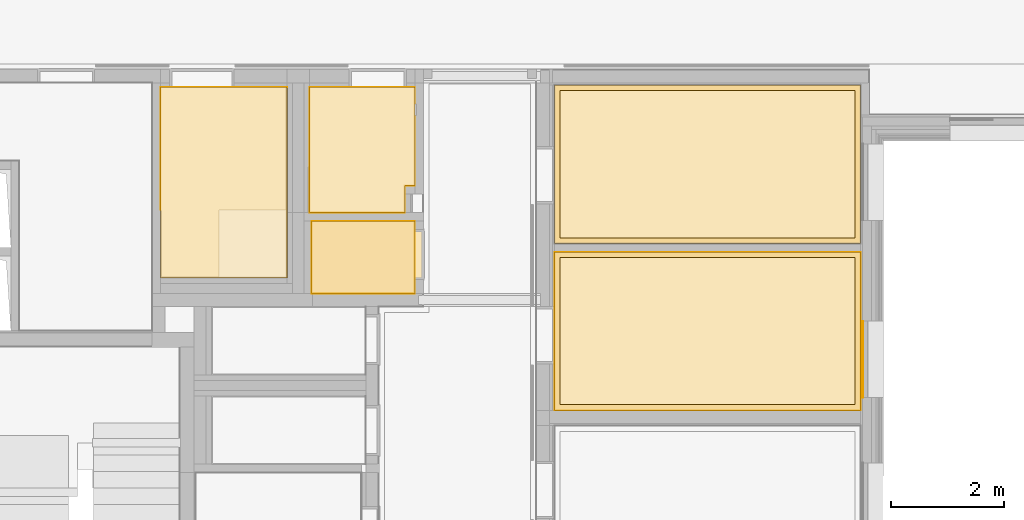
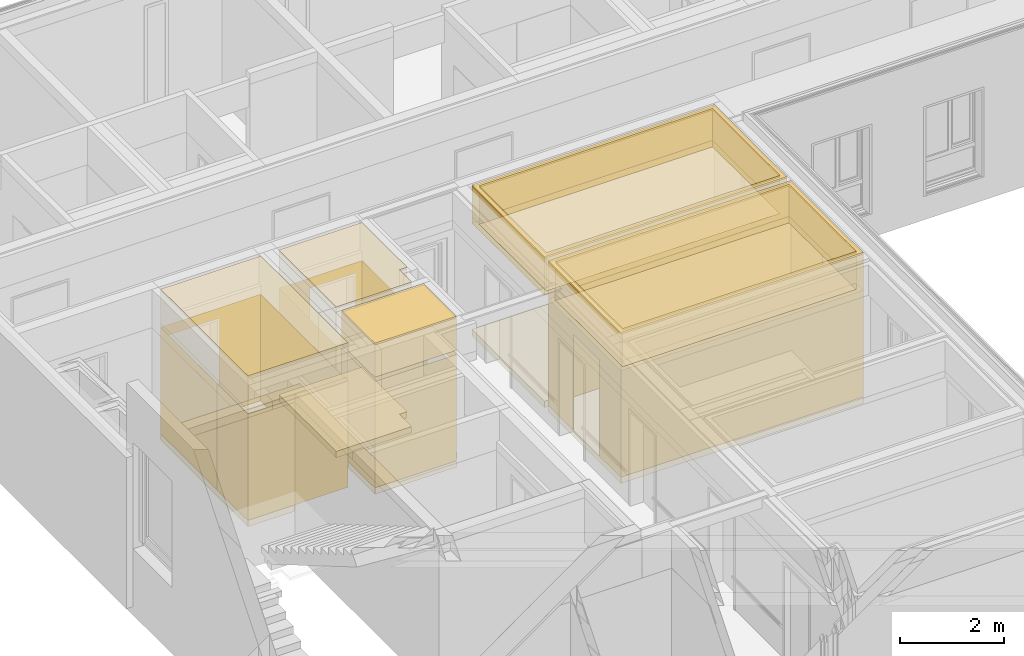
# One storey, part 161 of 222: 36 coverings.
"""IFC4 building model written with IfcOpenShell, lengths in metres."""

from ifc_helpers import new_model, entity, si_unit, converted_unit, derived_unit, frame, frame_2d, origin, origin_with_axes, place, context, subcontext, project, spatial, polyline, rectangle, outline, extrude, material, layer, layer_set, layer_usage, element, save


model = new_model("IFC4")

# Units and contexts
model_context = context("Model", 3, precision=1e-05, world=origin())
body_context = subcontext(model_context, "Body", "Model", "MODEL_VIEW")
ifc_project = project(units=[si_unit("LENGTHUNIT", "METRE"), si_unit("AREAUNIT", "SQUARE_METRE"), si_unit("VOLUMEUNIT", "CUBIC_METRE"), si_unit("MASSUNIT", "GRAM", prefix="KILO"), converted_unit("PLANEANGLEUNIT", "DEGREE", entity("IfcPlaneAngleMeasure", 0.0174532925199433), si_unit("PLANEANGLEUNIT", "RADIAN"), dimensions=[0, 0, 0, 0, 0, 0, 0]), derived_unit("THERMALTRANSMITTANCEUNIT", [(si_unit("POWERUNIT", "WATT"), 1), (si_unit("THERMODYNAMICTEMPERATUREUNIT", "KELVIN"), -1), (si_unit("LENGTHUNIT", "METRE"), -2)]), derived_unit("VOLUMETRICFLOWRATEUNIT", [(si_unit("LENGTHUNIT", "METRE"), 3), (converted_unit("TIMEUNIT", "hour", entity("IfcTimeMeasure", 3600.0), si_unit("TIMEUNIT", "SECOND"), dimensions=[0, 0, 1, 0, 0, 0, 0]), -1), (si_unit("LENGTHUNIT", "METRE"), -1)])], contexts=[model_context])

# Site, building, storey, space
site_placement = place(None, origin())
site = spatial("IfcSite", under=ifc_project, at=site_placement, Name="Psychiatrie Neubau Wunstorf", CompositionType="ELEMENT")
building_placement = place(site_placement, origin())
building = spatial("IfcBuilding", under=site, at=building_placement, Name="Neubau H2 Stationsgebäude", CompositionType="ELEMENT")
storey_placement = place(building_placement, frame((0.0, 0.0, 3.6)))
storey = spatial("IfcBuildingStorey", under=building, at=storey_placement, Name="H2 Ebene +1", CompositionType="ELEMENT", Elevation=3.6)
space_1_placement = place(storey_placement, frame((10.2390000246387, 15.8255, 0.0)))
space_1 = spatial("IfcSpace", under=storey, at=space_1_placement, Name="WUN-H2-E01-034", CompositionType="ELEMENT")

# Coverings
ifc_material_1 = material()
ifc_layer_1 = layer(ifc_material_1, 0.036)
ifc_layer_set_1 = layer_set([ifc_layer_1])
ifc_layer_usage_1 = layer_usage(ifc_layer_set_1, "AXIS3", "POSITIVE", 0.0)
covering_1_placement = place(space_1_placement, frame((0.0, 0.0, 3.55)))
element("IfcCovering", 1, at=covering_1_placement, inside=space_1, material=ifc_layer_usage_1, Name="Gipsfaserplatten 2-lagig (BSK)", PredefinedType="CEILING", context=body_context, shape_type="SweptSolid", body=[
    extrude(outline(polyline([(0.0, 0.0), (5.39999997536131, 0.0), (5.39999997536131, 2.7925), (0.0, 2.7925), (0.0, 0.0)]), holes=[polyline([(5.29999997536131, 2.6925), (5.29999997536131, 0.1), (0.1, 0.1), (0.1, 2.6925), (5.29999997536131, 2.6925)])]), frame((0.0, 2.7925, 0.0), z_axis=(0.0, 0.0, -1.0), x_axis=(1.0, 0.0, 0.0)), (0.0, 0.0, 1.0), 0.036),
])
ifc_material_2 = material(Name="Installationshöhe")
ifc_layer_2 = layer(ifc_material_2, 0.714)
ifc_layer_set_2 = layer_set([ifc_layer_2])
ifc_layer_usage_2 = layer_usage(ifc_layer_set_2, "AXIS3", "POSITIVE", 0.0)
covering_2_placement = place(space_1_placement, frame((0.0, 0.0, 3.514)))
element("IfcCovering", 2, at=covering_2_placement, inside=space_1, material=ifc_layer_usage_2, Name="Gipsfaserplatten 2-lagig (BSK)", PredefinedType="CEILING", context=body_context, shape_type="SweptSolid", body=[
    extrude(outline(polyline([(0.0, 0.0), (5.39999997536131, 0.0), (5.39999997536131, 2.7925), (0.0, 2.7925), (0.0, 0.0)]), holes=[polyline([(5.29999997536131, 2.6925), (5.29999997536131, 0.1), (0.1, 0.1), (0.1, 2.6925), (5.29999997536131, 2.6925)])]), frame((0.0, 2.7925, 0.0), z_axis=(0.0, 0.0, -1.0), x_axis=(1.0, 0.0, 0.0)), (0.0, 0.0, 1.0), 0.714),
])
ifc_material_3 = material(Name="A1")
ifc_layer_3 = layer(ifc_material_3, 0.15)
ifc_layer_set_3 = layer_set([ifc_layer_3])
ifc_layer_usage_3 = layer_usage(ifc_layer_set_3, "AXIS3", "POSITIVE", 0.0)
covering_3_placement = place(space_1_placement, frame((0.0, 0.0, 2.8)))
element("IfcCovering", 3, at=covering_3_placement, inside=space_1, material=ifc_layer_usage_3, Name="Gipsfaserplatten 2-lagig (BSK)", PredefinedType="CEILING", context=body_context, shape_type="SweptSolid", body=[
    extrude(outline(polyline([(0.0, 0.0), (5.39999997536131, 0.0), (5.39999997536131, 2.7925), (0.0, 2.7925), (0.0, 0.0)]), holes=[polyline([(5.29999997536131, 2.6925), (5.29999997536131, 0.1), (0.1, 0.1), (0.1, 2.6925), (5.29999997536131, 2.6925)])]), frame((0.0, 2.7925, 0.0), z_axis=(0.0, 0.0, -1.0), x_axis=(1.0, 0.0, 0.0)), (0.0, 0.0, 1.0), 0.15),
])
ifc_material_4 = material(Name="D1")
ifc_layer_4 = layer(ifc_material_4, 0.001)
ifc_layer_set_4 = layer_set([ifc_layer_4])
ifc_layer_usage_4 = layer_usage(ifc_layer_set_4, "AXIS3", "POSITIVE", 0.0)
covering_4_placement = place(space_1_placement, frame((0.0, 0.0, 2.65)))
element("IfcCovering", 4, at=covering_4_placement, inside=space_1, material=ifc_layer_usage_4, Name="Gipsfaserplatten 2-lagig (BSK)", PredefinedType="CEILING", context=body_context, shape_type="SweptSolid", body=[
    extrude(outline(polyline([(0.0, 0.0), (5.39999997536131, 0.0), (5.39999997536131, 2.7925), (0.0, 2.7925), (0.0, 0.0)]), holes=[polyline([(5.29999997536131, 2.6925), (5.29999997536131, 0.1), (0.1, 0.1), (0.1, 2.6925), (5.29999997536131, 2.6925)])]), frame((0.0, 2.7925, 0.0), z_axis=(0.0, 0.0, -1.0), x_axis=(1.0, 0.0, 0.0)), (0.0, 0.0, 1.0), 0.001),
])
ifc_material_5 = material()
ifc_layer_5 = layer(ifc_material_5, 0.036)
ifc_layer_set_5 = layer_set([ifc_layer_5])
ifc_layer_usage_5 = layer_usage(ifc_layer_set_5, "AXIS3", "POSITIVE", 0.0)
covering_5_placement = place(space_1_placement, frame((0.1, 0.1, 3.55)))
element("IfcCovering", 5, at=covering_5_placement, inside=space_1, material=ifc_layer_usage_5, Name="Gipsfaserplatten 2-lagig (BSK)", PredefinedType="CEILING", context=body_context, shape_type="SweptSolid", body=[
    extrude(rectangle(XDim=2.5925, YDim=5.19999997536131, at=frame_2d((2.59999998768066, -1.29625), x_axis=(0.0, -1.0))), frame((0.0, 0.0, 0.0), z_axis=(0.0, 0.0, -1.0), x_axis=(1.0, 0.0, 0.0)), (0.0, 0.0, 1.0), 0.036),
])
ifc_material_6 = material(Name="Installationshöhe")
ifc_layer_6 = layer(ifc_material_6, 0.714)
ifc_layer_set_6 = layer_set([ifc_layer_6])
ifc_layer_usage_6 = layer_usage(ifc_layer_set_6, "AXIS3", "POSITIVE", 0.0)
covering_6_placement = place(space_1_placement, frame((0.1, 0.1, 3.514)))
element("IfcCovering", 6, at=covering_6_placement, inside=space_1, material=ifc_layer_usage_6, Name="Gipsfaserplatten 2-lagig (BSK)", PredefinedType="CEILING", context=body_context, shape_type="SweptSolid", body=[
    extrude(rectangle(XDim=2.5925, YDim=5.19999997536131, at=frame_2d((2.59999998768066, -1.29625), x_axis=(0.0, -1.0))), frame((0.0, 0.0, 0.0), z_axis=(0.0, 0.0, -1.0), x_axis=(1.0, 0.0, 0.0)), (0.0, 0.0, 1.0), 0.714),
])
ifc_material_7 = material(Name="Aa")
ifc_layer_7 = layer(ifc_material_7, 0.15)
ifc_layer_set_7 = layer_set([ifc_layer_7])
ifc_layer_usage_7 = layer_usage(ifc_layer_set_7, "AXIS3", "POSITIVE", 0.0)
covering_7_placement = place(space_1_placement, frame((0.1, 0.1, 2.8)))
element("IfcCovering", 7, at=covering_7_placement, inside=space_1, material=ifc_layer_usage_7, Name="Gipsfaserplatten 2-lagig (BSK)", PredefinedType="CEILING", context=body_context, shape_type="SweptSolid", body=[
    extrude(rectangle(XDim=2.5925, YDim=5.19999997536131, at=frame_2d((2.59999998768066, -1.29625), x_axis=(0.0, -1.0))), frame((0.0, 0.0, 0.0), z_axis=(0.0, 0.0, -1.0), x_axis=(1.0, 0.0, 0.0)), (0.0, 0.0, 1.0), 0.15),
])
ifc_material_8 = material(Name="D1")
ifc_layer_8 = layer(ifc_material_8, 0.001)
ifc_layer_set_8 = layer_set([ifc_layer_8])
ifc_layer_usage_8 = layer_usage(ifc_layer_set_8, "AXIS3", "POSITIVE", 0.0)
covering_8_placement = place(space_1_placement, frame((0.1, 0.1, 2.65)))
element("IfcCovering", 8, at=covering_8_placement, inside=space_1, material=ifc_layer_usage_8, Name="Gipsfaserplatten 2-lagig (BSK)", PredefinedType="CEILING", context=body_context, shape_type="SweptSolid", body=[
    extrude(rectangle(XDim=2.5925, YDim=5.19999997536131, at=frame_2d((2.59999998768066, -1.29625), x_axis=(0.0, -1.0))), frame((0.0, 0.0, 0.0), z_axis=(0.0, 0.0, -1.0), x_axis=(1.0, 0.0, 0.0)), (0.0, 0.0, 1.0), 0.001),
])
ifc_material_9 = material(Name="Ku1")
ifc_layer_9 = layer(ifc_material_9, 0.15)
ifc_layer_set_9 = layer_set([ifc_layer_9])
ifc_layer_usage_9 = layer_usage(ifc_layer_set_9, "AXIS3", "POSITIVE", 0.0)
covering_9_placement = place(space_1_placement, origin())
element("IfcCovering", 9, at=covering_9_placement, inside=space_1, material=ifc_layer_usage_9, Name="PVC Bahnenware Holzoptik", PredefinedType="FLOORING", context=body_context, shape_type="SweptSolid", body=[
    extrude(rectangle(XDim=2.7925, YDim=5.39999997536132, at=frame_2d((-2.69999998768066, 1.39625), x_axis=(0.0, 1.0))), frame((5.39999997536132, 0.0, 0.0), z_axis=(0.0, 0.0, 1.0), x_axis=(1.0, 0.0, 0.0)), (0.0, 0.0, 1.0), 0.15),
])
ifc_material_10 = material(Name="49")
ifc_layer_10 = layer(ifc_material_10, 0.001)
ifc_layer_set_10 = layer_set([ifc_layer_10])
ifc_layer_usage_10 = layer_usage(ifc_layer_set_10, "AXIS3", "POSITIVE", 0.0)
covering_10_placement = place(space_1_placement, frame((0.0, 0.0, 0.15)))
element("IfcCovering", 10, at=covering_10_placement, inside=space_1, material=ifc_layer_usage_10, PredefinedType="CLADDING", context=body_context, shape_type="SweptSolid", body=[
    extrude(outline(polyline([(0.0, 3.15), (0.963986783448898, 3.15), (0.963986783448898, 0.89), (1.9739867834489, 0.89), (1.9739867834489, 3.15), (2.7925, 3.15), (2.7925, 0.0), (0.0, 0.0), (0.0, 3.15)])), frame((0.0, 2.7925, 3.15), z_axis=(1.0, 0.0, -1.89147406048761e-16), x_axis=(0.0, -1.0, 0.0)), (0.0, 0.0, 1.0), 0.001),
    extrude(rectangle(XDim=5.39999997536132, YDim=3.15, at=frame_2d((2.69999998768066, -1.575), x_axis=(1.0, 0.0))), frame((0.0, 0.0, 0.0), z_axis=(0.0, 1.0, 0.0), x_axis=(1.0, 0.0, 0.0)), (0.0, 0.0, 1.0), 0.001),
    extrude(outline(polyline([(0.0, 3.15), (2.7925, 3.15), (2.7925, 0.0), (0.0, 0.0), (0.0, 3.15)]), holes=[polyline([(1.57449999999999, 2.75), (0.224499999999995, 2.75), (0.224499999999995, 0.635), (1.57449999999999, 0.635), (1.57449999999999, 2.75)])]), frame((5.39999997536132, 0.0, 3.15), z_axis=(-1.0, 0.0, 0.0), x_axis=(0.0, 1.0, 0.0)), (0.0, 0.0, 1.0), 0.001),
    extrude(rectangle(XDim=5.39999997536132, YDim=3.15, at=frame_2d((2.69999998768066, -1.575), x_axis=(1.0, 0.0))), frame((5.39999997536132, 2.7925, 0.0), z_axis=(0.0, -1.0, 0.0), x_axis=(-1.0, 0.0, 0.0)), (0.0, 0.0, 1.0), 0.001),
    extrude(rectangle(XDim=0.0500000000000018, YDim=1.35, at=frame_2d((0.0250000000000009, -0.674999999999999), x_axis=(1.0, 0.0))), frame((5.39999997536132, 0.224499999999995, 2.515), z_axis=(0.0, 0.0, -1.0), x_axis=(1.0, 0.0, 0.0)), (0.0, 0.0, 1.0), 0.001),
    extrude(rectangle(XDim=0.0500000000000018, YDim=2.115, at=frame_2d((0.0250000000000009, -1.0575), x_axis=(1.0, 0.0))), frame((5.39999997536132, 0.224499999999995, 0.4), z_axis=(0.0, 1.0, 0.0), x_axis=(1.0, 0.0, 0.0)), (0.0, 0.0, 1.0), 0.001),
    extrude(rectangle(XDim=2.115, YDim=0.0500000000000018, at=frame_2d((-0.0250000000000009, -1.0575), x_axis=(0.0, -1.0))), frame((5.39999997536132, 1.57449999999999, 0.4), z_axis=(0.0, -1.0, 0.0), x_axis=(-1.0, 0.0, 0.0)), (0.0, 0.0, 1.0), 0.001),
])

# Space
space_2_placement = place(storey_placement, frame((10.2390000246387, 18.768, 0.0)))
space_2 = spatial("IfcSpace", under=storey, at=space_2_placement, Name="WUN-H2-E01-033", CompositionType="ELEMENT")

# Coverings
ifc_material_11 = material()
ifc_layer_11 = layer(ifc_material_11, 0.036)
ifc_layer_set_11 = layer_set([ifc_layer_11])
ifc_layer_usage_11 = layer_usage(ifc_layer_set_11, "AXIS3", "POSITIVE", 0.0)
covering_11_placement = place(space_2_placement, frame((0.1, 0.1, 3.55)))
element("IfcCovering", 11, at=covering_11_placement, inside=space_2, material=ifc_layer_usage_11, Name="Gipsfaserplatten 2-lagig (BSK)", PredefinedType="CEILING", context=body_context, shape_type="SweptSolid", body=[
    extrude(rectangle(XDim=2.59599999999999, YDim=5.19999997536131, at=frame_2d((2.59999998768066, -1.29799999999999), x_axis=(0.0, -1.0))), frame((0.0, 0.0, 0.0), z_axis=(0.0, 0.0, -1.0), x_axis=(1.0, 0.0, 0.0)), (0.0, 0.0, 1.0), 0.036),
])
ifc_material_12 = material(Name="Installationshöhe")
ifc_layer_12 = layer(ifc_material_12, 0.714)
ifc_layer_set_12 = layer_set([ifc_layer_12])
ifc_layer_usage_12 = layer_usage(ifc_layer_set_12, "AXIS3", "POSITIVE", 0.0)
covering_12_placement = place(space_2_placement, frame((0.1, 0.1, 3.514)))
element("IfcCovering", 12, at=covering_12_placement, inside=space_2, material=ifc_layer_usage_12, Name="Gipsfaserplatten 2-lagig (BSK)", PredefinedType="CEILING", context=body_context, shape_type="SweptSolid", body=[
    extrude(rectangle(XDim=2.59599999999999, YDim=5.19999997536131, at=frame_2d((2.59999998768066, -1.29799999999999), x_axis=(0.0, -1.0))), frame((0.0, 0.0, 0.0), z_axis=(0.0, 0.0, -1.0), x_axis=(1.0, 0.0, 0.0)), (0.0, 0.0, 1.0), 0.714),
])
ifc_material_13 = material(Name="Aa")
ifc_layer_13 = layer(ifc_material_13, 0.15)
ifc_layer_set_13 = layer_set([ifc_layer_13])
ifc_layer_usage_13 = layer_usage(ifc_layer_set_13, "AXIS3", "POSITIVE", 0.0)
covering_13_placement = place(space_2_placement, frame((0.1, 0.1, 2.8)))
element("IfcCovering", 13, at=covering_13_placement, inside=space_2, material=ifc_layer_usage_13, Name="Gipsfaserplatten 2-lagig (BSK)", PredefinedType="CEILING", context=body_context, shape_type="SweptSolid", body=[
    extrude(rectangle(XDim=2.59599999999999, YDim=5.19999997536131, at=frame_2d((2.59999998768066, -1.29799999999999), x_axis=(0.0, -1.0))), frame((0.0, 0.0, 0.0), z_axis=(0.0, 0.0, -1.0), x_axis=(1.0, 0.0, 0.0)), (0.0, 0.0, 1.0), 0.15),
])
ifc_material_14 = material(Name="D1")
ifc_layer_14 = layer(ifc_material_14, 0.001)
ifc_layer_set_14 = layer_set([ifc_layer_14])
ifc_layer_usage_14 = layer_usage(ifc_layer_set_14, "AXIS3", "POSITIVE", 0.0)
covering_14_placement = place(space_2_placement, frame((0.1, 0.1, 2.65)))
element("IfcCovering", 14, at=covering_14_placement, inside=space_2, material=ifc_layer_usage_14, Name="Gipsfaserplatten 2-lagig (BSK)", PredefinedType="CEILING", context=body_context, shape_type="SweptSolid", body=[
    extrude(rectangle(XDim=2.59599999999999, YDim=5.19999997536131, at=frame_2d((2.59999998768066, -1.29799999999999), x_axis=(0.0, -1.0))), frame((0.0, 0.0, 0.0), z_axis=(0.0, 0.0, -1.0), x_axis=(1.0, 0.0, 0.0)), (0.0, 0.0, 1.0), 0.001),
])
ifc_material_15 = material()
ifc_layer_15 = layer(ifc_material_15, 0.036)
ifc_layer_set_15 = layer_set([ifc_layer_15])
ifc_layer_usage_15 = layer_usage(ifc_layer_set_15, "AXIS3", "POSITIVE", 0.0)
covering_15_placement = place(space_2_placement, frame((0.0, 0.0, 3.55)))
element("IfcCovering", 15, at=covering_15_placement, inside=space_2, material=ifc_layer_usage_15, Name="Gipsfaserplatten 2-lagig (BSK)", PredefinedType="CEILING", context=body_context, shape_type="SweptSolid", body=[
    extrude(outline(polyline([(0.0, 0.0), (5.39999997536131, 0.0), (5.39999997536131, 2.79599999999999), (0.0, 2.79599999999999), (0.0, 0.0)]), holes=[polyline([(0.1, 2.69599999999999), (5.29999997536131, 2.69599999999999), (5.29999997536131, 0.1), (0.1, 0.1), (0.1, 2.69599999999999)])]), frame((0.0, 2.79599999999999, 0.0), z_axis=(0.0, 0.0, -1.0), x_axis=(1.0, 0.0, 0.0)), (0.0, 0.0, 1.0), 0.036),
])
ifc_material_16 = material(Name="Installationshöhe")
ifc_layer_16 = layer(ifc_material_16, 0.714)
ifc_layer_set_16 = layer_set([ifc_layer_16])
ifc_layer_usage_16 = layer_usage(ifc_layer_set_16, "AXIS3", "POSITIVE", 0.0)
covering_16_placement = place(space_2_placement, frame((0.0, 0.0, 3.514)))
element("IfcCovering", 16, at=covering_16_placement, inside=space_2, material=ifc_layer_usage_16, Name="Gipsfaserplatten 2-lagig (BSK)", PredefinedType="CEILING", context=body_context, shape_type="SweptSolid", body=[
    extrude(outline(polyline([(0.0, 0.0), (5.39999997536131, 0.0), (5.39999997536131, 2.79599999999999), (0.0, 2.79599999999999), (0.0, 0.0)]), holes=[polyline([(0.1, 2.69599999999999), (5.29999997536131, 2.69599999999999), (5.29999997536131, 0.1), (0.1, 0.1), (0.1, 2.69599999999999)])]), frame((0.0, 2.79599999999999, 0.0), z_axis=(0.0, 0.0, -1.0), x_axis=(1.0, 0.0, 0.0)), (0.0, 0.0, 1.0), 0.714),
])
ifc_material_17 = material(Name="A1")
ifc_layer_17 = layer(ifc_material_17, 0.15)
ifc_layer_set_17 = layer_set([ifc_layer_17])
ifc_layer_usage_17 = layer_usage(ifc_layer_set_17, "AXIS3", "POSITIVE", 0.0)
covering_17_placement = place(space_2_placement, frame((0.0, 0.0, 2.8)))
element("IfcCovering", 17, at=covering_17_placement, inside=space_2, material=ifc_layer_usage_17, Name="Gipsfaserplatten 2-lagig (BSK)", PredefinedType="CEILING", context=body_context, shape_type="SweptSolid", body=[
    extrude(outline(polyline([(0.0, 0.0), (5.39999997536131, 0.0), (5.39999997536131, 2.79599999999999), (0.0, 2.79599999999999), (0.0, 0.0)]), holes=[polyline([(0.1, 2.69599999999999), (5.29999997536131, 2.69599999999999), (5.29999997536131, 0.1), (0.1, 0.1), (0.1, 2.69599999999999)])]), frame((0.0, 2.79599999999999, 0.0), z_axis=(0.0, 0.0, -1.0), x_axis=(1.0, 0.0, 0.0)), (0.0, 0.0, 1.0), 0.15),
])
ifc_material_18 = material(Name="D1")
ifc_layer_18 = layer(ifc_material_18, 0.001)
ifc_layer_set_18 = layer_set([ifc_layer_18])
ifc_layer_usage_18 = layer_usage(ifc_layer_set_18, "AXIS3", "POSITIVE", 0.0)
covering_18_placement = place(space_2_placement, frame((0.0, 0.0, 2.65)))
element("IfcCovering", 18, at=covering_18_placement, inside=space_2, material=ifc_layer_usage_18, Name="Gipsfaserplatten 2-lagig (BSK)", PredefinedType="CEILING", context=body_context, shape_type="SweptSolid", body=[
    extrude(outline(polyline([(0.0, 0.0), (5.39999997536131, 0.0), (5.39999997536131, 2.79599999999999), (0.0, 2.79599999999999), (0.0, 0.0)]), holes=[polyline([(0.1, 2.69599999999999), (5.29999997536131, 2.69599999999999), (5.29999997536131, 0.1), (0.1, 0.1), (0.1, 2.69599999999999)])]), frame((0.0, 2.79599999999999, 0.0), z_axis=(0.0, 0.0, -1.0), x_axis=(1.0, 0.0, 0.0)), (0.0, 0.0, 1.0), 0.001),
])
ifc_material_19 = material(Name="Ku1")
ifc_layer_19 = layer(ifc_material_19, 0.15)
ifc_layer_set_19 = layer_set([ifc_layer_19])
ifc_layer_usage_19 = layer_usage(ifc_layer_set_19, "AXIS3", "POSITIVE", 0.0)
covering_19_placement = place(space_2_placement, origin())
element("IfcCovering", 19, at=covering_19_placement, inside=space_2, material=ifc_layer_usage_19, Name="PVC Bahnenware Holzoptik", PredefinedType="FLOORING", context=body_context, shape_type="SweptSolid", body=[
    extrude(rectangle(XDim=5.39999997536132, YDim=2.79599999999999, at=frame_2d((2.69999998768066, 1.39799999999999), x_axis=(1.0, 0.0))), origin_with_axes(), (0.0, 0.0, 1.0), 0.15),
])

# Space
space_3_placement = place(storey_placement, frame((5.95501322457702, 17.8860132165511, 0.0)))
space_3 = spatial("IfcSpace", under=storey, at=space_3_placement, Name="WUN-H2-E01-032", CompositionType="ELEMENT")

# Coverings
ifc_material_20 = material(Name="Ku2")
ifc_layer_20 = layer(ifc_material_20, 0.15)
ifc_layer_set_20 = layer_set([ifc_layer_20])
ifc_layer_usage_20 = layer_usage(ifc_layer_set_20, "AXIS3", "POSITIVE", 0.0)
covering_20_placement = place(space_3_placement, origin())
element("IfcCovering", 20, at=covering_20_placement, inside=space_3, material=ifc_layer_usage_20, Name="PVC Bahnenware Uni", PredefinedType="FLOORING", context=body_context, shape_type="SweptSolid", body=[
    extrude(rectangle(XDim=0.15, YDim=0.885000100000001, at=frame_2d((0.075, 0.442500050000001), x_axis=(1.0, 0.0))), frame((1.81998677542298, 0.243996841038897, 0.0), z_axis=(0.0, 0.0, 1.0), x_axis=(1.0, 0.0, 0.0)), (0.0, 0.0, 1.0), 0.15),
    extrude(rectangle(XDim=1.27899108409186, YDim=1.819986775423, at=frame_2d((-0.909993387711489, 0.639495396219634), x_axis=(2.13330971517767e-15, 1.0))), frame((1.81998677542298, 0.0, 0.0), z_axis=(0.0, 0.0, 1.0), x_axis=(1.0, 0.0, 0.0)), (0.0, 0.0, 1.0), 0.15),
])
ifc_material_21 = material()
ifc_layer_21 = layer(ifc_material_21, 0.036)
ifc_layer_set_21 = layer_set([ifc_layer_21])
ifc_layer_usage_21 = layer_usage(ifc_layer_set_21, "AXIS3", "POSITIVE", 0.0)
covering_21_placement = place(space_3_placement, frame((0.0, 0.0, 3.55)))
element("IfcCovering", 21, at=covering_21_placement, inside=space_3, material=ifc_layer_usage_21, Name="Gipsfaserplatten 2-lagig (BSK)", PredefinedType="CEILING", context=body_context, shape_type="SweptSolid", body=[
    extrude(rectangle(XDim=1.27899108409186, YDim=1.81998677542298, at=frame_2d((-0.90999338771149, 0.63949554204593), x_axis=(-2.13330971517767e-15, 1.0))), frame((1.81998677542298, 1.27899108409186, 0.0), z_axis=(0.0, 0.0, -1.0), x_axis=(1.0, 0.0, 0.0)), (0.0, 0.0, 1.0), 0.036),
])
ifc_material_22 = material(Name="Installationshöhe")
ifc_layer_22 = layer(ifc_material_22, 0.764)
ifc_layer_set_22 = layer_set([ifc_layer_22])
ifc_layer_usage_22 = layer_usage(ifc_layer_set_22, "AXIS3", "POSITIVE", 0.0)
covering_22_placement = place(space_3_placement, frame((0.0, 0.0, 3.514)))
element("IfcCovering", 22, at=covering_22_placement, inside=space_3, material=ifc_layer_usage_22, Name="Gipsfaserplatten 2-lagig (BSK)", PredefinedType="CEILING", context=body_context, shape_type="SweptSolid", body=[
    extrude(rectangle(XDim=1.27899108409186, YDim=1.81998677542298, at=frame_2d((-0.90999338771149, 0.63949554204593), x_axis=(-2.13330971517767e-15, 1.0))), frame((1.81998677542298, 1.27899108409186, 0.0), z_axis=(0.0, 0.0, -1.0), x_axis=(1.0, 0.0, 0.0)), (0.0, 0.0, 1.0), 0.764),
])
ifc_material_23 = material(Name="E3")
ifc_layer_23 = layer(ifc_material_23, 0.1)
ifc_layer_set_23 = layer_set([ifc_layer_23])
ifc_layer_usage_23 = layer_usage(ifc_layer_set_23, "AXIS3", "POSITIVE", 0.0)
covering_23_placement = place(space_3_placement, frame((0.0, 0.0, 2.75)))
element("IfcCovering", 23, at=covering_23_placement, inside=space_3, material=ifc_layer_usage_23, Name="Rasterdecke", PredefinedType="CEILING", context=body_context, shape_type="SweptSolid", body=[
    extrude(rectangle(XDim=1.27899108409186, YDim=1.81998677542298, at=frame_2d((-0.90999338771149, 0.63949554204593), x_axis=(-2.13330971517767e-15, 1.0))), frame((1.81998677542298, 1.27899108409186, 0.0), z_axis=(0.0, 0.0, -1.0), x_axis=(1.0, 0.0, 0.0)), (0.0, 0.0, 1.0), 0.1),
])
ifc_material_24 = material(Name="50")
ifc_layer_24 = layer(ifc_material_24, 0.001)
ifc_layer_set_24 = layer_set([ifc_layer_24])
ifc_layer_usage_24 = layer_usage(ifc_layer_set_24, "AXIS3", "POSITIVE", 0.0)
covering_24_placement = place(space_3_placement, frame((0.0, 0.0, 0.15)))
element("IfcCovering", 24, at=covering_24_placement, inside=space_3, material=ifc_layer_usage_24, PredefinedType="CLADDING", context=body_context, shape_type="SweptSolid", body=[
    extrude(rectangle(XDim=1.27899079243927, YDim=2.5, at=frame_2d((0.639495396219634, -1.25), x_axis=(1.0, 0.0))), frame((0.0, 1.27899079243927, 0.0), z_axis=(1.0, 0.0, 0.0), x_axis=(0.0, -1.0, 0.0)), (0.0, 0.0, 1.0), 0.001),
    extrude(rectangle(XDim=1.81998677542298, YDim=2.5, at=frame_2d((0.909993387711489, -1.25), x_axis=(1.0, 0.0))), frame((0.0, 0.0, 0.0), z_axis=(0.0, 1.0, 0.0), x_axis=(1.0, 0.0, 0.0)), (0.0, 0.0, 1.0), 0.001),
    extrude(outline(polyline([(0.0, 2.5), (0.243996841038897, 2.5), (0.243996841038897, 0.24), (1.1289969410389, 0.24), (1.1289969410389, 2.5), (1.27899108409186, 2.5), (1.27899108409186, 0.0), (0.0, 0.0), (0.0, 2.5)])), frame((1.81998677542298, 0.0, 2.5), z_axis=(-1.0, 1.61954103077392e-15, -2.97463574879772e-16), x_axis=(1.61954103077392e-15, 1.0, 0.0)), (0.0, 0.0, 1.0), 0.001),
    extrude(rectangle(XDim=1.819986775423, YDim=2.5, at=frame_2d((0.909993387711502, -1.25), x_axis=(1.0, 0.0))), frame((1.81998677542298, 1.27899108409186, 0.0), z_axis=(1.60249841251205e-07, -0.999999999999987, 0.0), x_axis=(-0.999999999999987, -1.60249841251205e-07, 0.0)), (0.0, 0.0, 1.0), 0.001),
])

# Space
space_4_placement = place(storey_placement, frame((5.92029110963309, 19.3150163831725, 0.0)))
space_4 = spatial("IfcSpace", under=storey, at=space_4_placement, Name="WUN-H2-E01-038", CompositionType="ELEMENT")

# Coverings
ifc_material_25 = material(Name="Ku2")
ifc_layer_25 = layer(ifc_material_25, 0.15)
ifc_layer_set_25 = layer_set([ifc_layer_25])
ifc_layer_usage_25 = layer_usage(ifc_layer_set_25, "AXIS3", "POSITIVE", 0.0)
covering_25_placement = place(space_4_placement, origin())
element("IfcCovering", 25, at=covering_25_placement, inside=space_4, material=ifc_layer_usage_25, Name="PVC Bahnenware Uni", PredefinedType="FLOORING", context=body_context, shape_type="SweptSolid", body=[
    extrude(outline(polyline([(1.85470907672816, 0.474993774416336), (1.85480603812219, 2.21398361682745), (0.0, 2.21398361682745), (0.0, 0.0), (1.6797088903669, 0.0), (1.6797088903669, 0.474993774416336), (1.85470907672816, 0.474993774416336)])), origin_with_axes(), (0.0, 0.0, 1.0), 0.15),
])
ifc_material_26 = material()
ifc_layer_26 = layer(ifc_material_26, 0.036)
ifc_layer_set_26 = layer_set([ifc_layer_26])
ifc_layer_usage_26 = layer_usage(ifc_layer_set_26, "AXIS3", "POSITIVE", 0.0)
covering_26_placement = place(space_4_placement, frame((0.0, 0.0, 3.55)))
element("IfcCovering", 26, at=covering_26_placement, inside=space_4, material=ifc_layer_usage_26, Name="Gipsfaserplatten 2-lagig (BSK)", PredefinedType="CEILING", context=body_context, shape_type="SweptSolid", body=[
    extrude(outline(polyline([(1.85480603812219, 0.0), (1.85470907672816, 1.73898984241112), (1.6797088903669, 1.73898984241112), (1.6797088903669, 2.21398361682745), (0.0, 2.21398361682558), (0.0, 0.0), (1.85480603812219, 0.0)])), frame((0.0, 2.21398361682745, 0.0), z_axis=(0.0, 0.0, -1.0), x_axis=(1.0, 0.0, 0.0)), (0.0, 0.0, 1.0), 0.036),
])
ifc_material_27 = material(Name="Installationshöhe")
ifc_layer_27 = layer(ifc_material_27, 0.764)
ifc_layer_set_27 = layer_set([ifc_layer_27])
ifc_layer_usage_27 = layer_usage(ifc_layer_set_27, "AXIS3", "POSITIVE", 0.0)
covering_27_placement = place(space_4_placement, frame((0.0, 0.0, 3.514)))
element("IfcCovering", 27, at=covering_27_placement, inside=space_4, material=ifc_layer_usage_27, Name="Gipsfaserplatten 2-lagig (BSK)", PredefinedType="CEILING", context=body_context, shape_type="SweptSolid", body=[
    extrude(outline(polyline([(1.85480603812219, 0.0), (1.85470907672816, 1.73898984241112), (1.6797088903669, 1.73898984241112), (1.6797088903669, 2.21398361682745), (0.0, 2.21398361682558), (0.0, 0.0), (1.85480603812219, 0.0)])), frame((0.0, 2.21398361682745, 0.0), z_axis=(0.0, 0.0, -1.0), x_axis=(1.0, 0.0, 0.0)), (0.0, 0.0, 1.0), 0.764),
])
ifc_material_28 = material(Name="E3")
ifc_layer_28 = layer(ifc_material_28, 0.1)
ifc_layer_set_28 = layer_set([ifc_layer_28])
ifc_layer_usage_28 = layer_usage(ifc_layer_set_28, "AXIS3", "POSITIVE", 0.0)
covering_28_placement = place(space_4_placement, frame((0.0, 0.0, 2.75)))
element("IfcCovering", 28, at=covering_28_placement, inside=space_4, material=ifc_layer_usage_28, Name="Rasterdecke", PredefinedType="CEILING", context=body_context, shape_type="SweptSolid", body=[
    extrude(outline(polyline([(1.85480603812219, 0.0), (1.85470907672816, 1.73898984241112), (1.6797088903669, 1.73898984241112), (1.6797088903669, 2.21398361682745), (0.0, 2.21398361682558), (0.0, 0.0), (1.85480603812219, 0.0)])), frame((0.0, 2.21398361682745, 0.0), z_axis=(0.0, 0.0, -1.0), x_axis=(1.0, 0.0, 0.0)), (0.0, 0.0, 1.0), 0.1),
])
ifc_material_29 = material(Name="50")
ifc_layer_29 = layer(ifc_material_29, 0.001)
ifc_layer_set_29 = layer_set([ifc_layer_29])
ifc_layer_usage_29 = layer_usage(ifc_layer_set_29, "AXIS3", "POSITIVE", 0.0)
covering_29_placement = place(space_4_placement, frame((0.0, 0.0, 0.15)))
element("IfcCovering", 29, at=covering_29_placement, inside=space_4, material=ifc_layer_usage_29, PredefinedType="CLADDING", context=body_context, shape_type="SweptSolid", body=[
    extrude(rectangle(XDim=0.474993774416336, YDim=2.5, at=frame_2d((0.237496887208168, -1.25), x_axis=(1.0, 0.0))), frame((1.6797088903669, 0.0, 0.0), z_axis=(-1.0, 0.0, 0.0), x_axis=(0.0, 1.0, 0.0)), (0.0, 0.0, 1.0), 0.001),
    extrude(rectangle(XDim=0.175000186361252, YDim=2.5, at=frame_2d((0.0875000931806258, -1.25), x_axis=(1.0, 0.0))), frame((1.6797088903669, 0.474993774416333, 0.0), z_axis=(0.0, 1.0, 0.0), x_axis=(1.0, 0.0, 0.0)), (0.0, 0.0, 1.0), 0.001),
    extrude(rectangle(XDim=1.73898984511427, YDim=2.5, at=frame_2d((0.869494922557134, -1.25), x_axis=(1.0, 0.0))), frame((1.85470907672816, 0.474993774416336, 0.0), z_axis=(-0.999999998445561, 5.57573089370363e-05, 0.0), x_axis=(5.57573089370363e-05, 0.999999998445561, 0.0)), (0.0, 0.0, 1.0), 0.001),
    extrude(outline(polyline([(0.0, 2.5), (0.150103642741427, 2.5), (0.150103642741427, 0.24), (1.16010364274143, 0.24), (1.16010364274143, 2.5), (1.85480603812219, 2.5), (1.85480603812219, 0.0), (0.0, 0.0), (0.0, 2.5)])), frame((1.85480603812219, 2.21398361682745, 2.5), z_axis=(0.0, -1.0, 0.0), x_axis=(-1.0, 0.0, 0.0)), (0.0, 0.0, 1.0), 0.001),
    extrude(rectangle(XDim=2.21398361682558, YDim=2.5, at=frame_2d((1.10699180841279, -1.25), x_axis=(1.0, 0.0))), frame((0.0, 2.21398361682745, 0.0), z_axis=(1.0, 0.0, 0.0), x_axis=(0.0, -1.0, 0.0)), (0.0, 0.0, 1.0), 0.001),
    extrude(rectangle(XDim=1.6797088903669, YDim=2.5, at=frame_2d((0.839854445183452, -1.25), x_axis=(1.0, 0.0))), frame((0.0, 0.0, 0.0), z_axis=(1.11540701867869e-12, 1.0, -2.52136829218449e-29), x_axis=(1.0, -1.11540701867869e-12, 0.0)), (0.0, 0.0, 1.0), 0.001),
])

# Space
space_5_placement = place(storey_placement, frame((3.28900622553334, 18.1609747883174, 0.0)))
space_5 = spatial("IfcSpace", under=storey, at=space_5_placement, Name="WUN-H2-E01-039", CompositionType="ELEMENT")

# Coverings
ifc_material_30 = material(Name="68")
ifc_layer_30 = layer(ifc_material_30, 0.01)
ifc_layer_set_30 = layer_set([ifc_layer_30])
ifc_layer_usage_30 = layer_usage(ifc_layer_set_30, "AXIS3", "POSITIVE", 0.0)
covering_30_placement = place(space_5_placement, frame((0.0, 0.0, 0.15)))
element("IfcCovering", 30, at=covering_30_placement, inside=space_5, material=ifc_layer_usage_30, Name="a-sh Wandbelag", PredefinedType="CLADDING", context=body_context, shape_type="SweptSolid", body=[
    extrude(rectangle(XDim=1.2, YDim=2.5, at=frame_2d((0.6, -1.25), x_axis=(1.0, 0.0))), frame((0.0, 1.2, 0.0), z_axis=(1.0, 0.0, 0.0), x_axis=(0.0, -1.0, 0.0)), (0.0, 0.0, 1.0), 0.01),
    extrude(rectangle(XDim=3.36802521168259, YDim=2.5, at=frame_2d((1.6840126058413, -1.25), x_axis=(1.0, 0.0))), frame((2.2313934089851, 0.0, 0.0), z_axis=(-1.0, 0.0, 0.0), x_axis=(0.0, 1.0, 0.0)), (0.0, 0.0, 1.0), 0.01),
    extrude(rectangle(XDim=2.2313934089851, YDim=2.5, at=frame_2d((1.11569670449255, -1.25), x_axis=(1.0, 0.0))), frame((0.0, 0.0, 0.0), z_axis=(0.0, 1.0, 0.0), x_axis=(1.0, 0.0, 0.0)), (0.0, 0.0, 1.0), 0.01),
])
ifc_material_31 = material(Name="Fl1")
ifc_layer_31 = layer(ifc_material_31, 0.15)
ifc_layer_set_31 = layer_set([ifc_layer_31])
ifc_layer_usage_31 = layer_usage(ifc_layer_set_31, "AXIS3", "POSITIVE", 0.0)
covering_31_placement = place(space_5_placement, origin())
element("IfcCovering", 31, at=covering_31_placement, inside=space_5, material=ifc_layer_usage_31, Name="Fliesen", PredefinedType="FLOORING", context=body_context, shape_type="SweptSolid", body=[
    extrude(outline(polyline([(1.03100076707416, 0.0), (1.03100076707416, 1.2), (2.23100076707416, 1.2), (2.2313934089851, 3.36802521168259), (0.0, 3.36802521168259), (0.0, 0.0), (1.03100076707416, 0.0)])), origin_with_axes(), (0.0, 0.0, 1.0), 0.15),
])
ifc_material_32 = material()
ifc_layer_32 = layer(ifc_material_32, 0.036)
ifc_layer_set_32 = layer_set([ifc_layer_32])
ifc_layer_usage_32 = layer_usage(ifc_layer_set_32, "AXIS3", "POSITIVE", 0.0)
covering_32_placement = place(space_5_placement, frame((0.0, 0.0, 3.55)))
element("IfcCovering", 32, at=covering_32_placement, inside=space_5, material=ifc_layer_usage_32, Name="Gipsfaserplatten 2-lagig (BSK)", PredefinedType="CEILING", context=body_context, shape_type="SweptSolid", body=[
    extrude(rectangle(XDim=3.36802521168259, YDim=2.2313934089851, at=frame_2d((1.11569670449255, -1.6840126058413), x_axis=(0.0, -1.0))), frame((0.0, 0.0, 0.0), z_axis=(0.0, 0.0, -1.0), x_axis=(1.0, 0.0, 0.0)), (0.0, 0.0, 1.0), 0.036),
])
ifc_material_33 = material(Name="Installationshöhe")
ifc_layer_33 = layer(ifc_material_33, 0.764)
ifc_layer_set_33 = layer_set([ifc_layer_33])
ifc_layer_usage_33 = layer_usage(ifc_layer_set_33, "AXIS3", "POSITIVE", 0.0)
covering_33_placement = place(space_5_placement, frame((0.0, 0.0, 3.514)))
element("IfcCovering", 33, at=covering_33_placement, inside=space_5, material=ifc_layer_usage_33, Name="Gipsfaserplatten 2-lagig (BSK)", PredefinedType="CEILING", context=body_context, shape_type="SweptSolid", body=[
    extrude(rectangle(XDim=3.36802521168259, YDim=2.2313934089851, at=frame_2d((1.11569670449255, -1.6840126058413), x_axis=(0.0, -1.0))), frame((0.0, 0.0, 0.0), z_axis=(0.0, 0.0, -1.0), x_axis=(1.0, 0.0, 0.0)), (0.0, 0.0, 1.0), 0.764),
])
ifc_material_34 = material(Name="B")
ifc_layer_34 = layer(ifc_material_34, 0.1)
ifc_layer_set_34 = layer_set([ifc_layer_34])
ifc_layer_usage_34 = layer_usage(ifc_layer_set_34, "AXIS3", "POSITIVE", 0.0)
covering_34_placement = place(space_5_placement, frame((0.0, 0.0, 2.75)))
element("IfcCovering", 34, at=covering_34_placement, inside=space_5, material=ifc_layer_usage_34, Name="Gipskarton, imprägniert", PredefinedType="CEILING", context=body_context, shape_type="SweptSolid", body=[
    extrude(rectangle(XDim=3.36802521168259, YDim=2.2313934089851, at=frame_2d((1.11569670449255, -1.6840126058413), x_axis=(0.0, -1.0))), frame((0.0, 0.0, 0.0), z_axis=(0.0, 0.0, -1.0), x_axis=(1.0, 0.0, 0.0)), (0.0, 0.0, 1.0), 0.1),
])
ifc_material_35 = material(Name="D1")
ifc_layer_35 = layer(ifc_material_35, 0.001)
ifc_layer_set_35 = layer_set([ifc_layer_35])
ifc_layer_usage_35 = layer_usage(ifc_layer_set_35, "AXIS3", "POSITIVE", 0.0)
covering_35_placement = place(space_5_placement, frame((0.0, 0.0, 2.65)))
element("IfcCovering", 35, at=covering_35_placement, inside=space_5, material=ifc_layer_usage_35, Name="Gipsfaserplatten 2-lagig (BSK)", PredefinedType="CEILING", context=body_context, shape_type="SweptSolid", body=[
    extrude(rectangle(XDim=3.36802521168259, YDim=2.2313934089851, at=frame_2d((1.11569670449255, -1.6840126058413), x_axis=(0.0, -1.0))), frame((0.0, 0.0, 0.0), z_axis=(0.0, 0.0, -1.0), x_axis=(1.0, 0.0, 0.0)), (0.0, 0.0, 1.0), 0.001),
])
ifc_material_36 = material(Name="50")
ifc_layer_36 = layer(ifc_material_36, 0.001)
ifc_layer_set_36 = layer_set([ifc_layer_36])
ifc_layer_usage_36 = layer_usage(ifc_layer_set_36, "AXIS3", "POSITIVE", 0.0)
covering_36_placement = place(space_5_placement, frame((0.0, 1.2, 0.15)))
element("IfcCovering", 36, at=covering_36_placement, inside=space_5, material=ifc_layer_usage_36, PredefinedType="CLADDING", context=body_context, shape_type="SweptSolid", body=[
    extrude(outline(polyline([(0.0, 2.5), (0.935393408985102, 2.5), (0.935393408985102, 0.24), (2.0703934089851, 0.24), (2.0703934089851, 2.5), (2.2313934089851, 2.5), (2.2313934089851, 0.0), (0.0, 0.0), (0.0, 2.5)])), frame((2.2313934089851, 2.16802521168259, 2.5), z_axis=(0.0, -1.0, 0.0), x_axis=(-1.0, 0.0, 0.0)), (0.0, 0.0, 1.0), 0.001),
    extrude(rectangle(XDim=2.16802521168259, YDim=2.5, at=frame_2d((1.0840126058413, -1.25), x_axis=(1.0, 0.0))), frame((0.0, 2.16802521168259, 0.0), z_axis=(1.0, 0.0, 0.0), x_axis=(0.0, -1.0, 0.0)), (0.0, 0.0, 1.0), 0.001),
])

save(model, "model.ifc")
